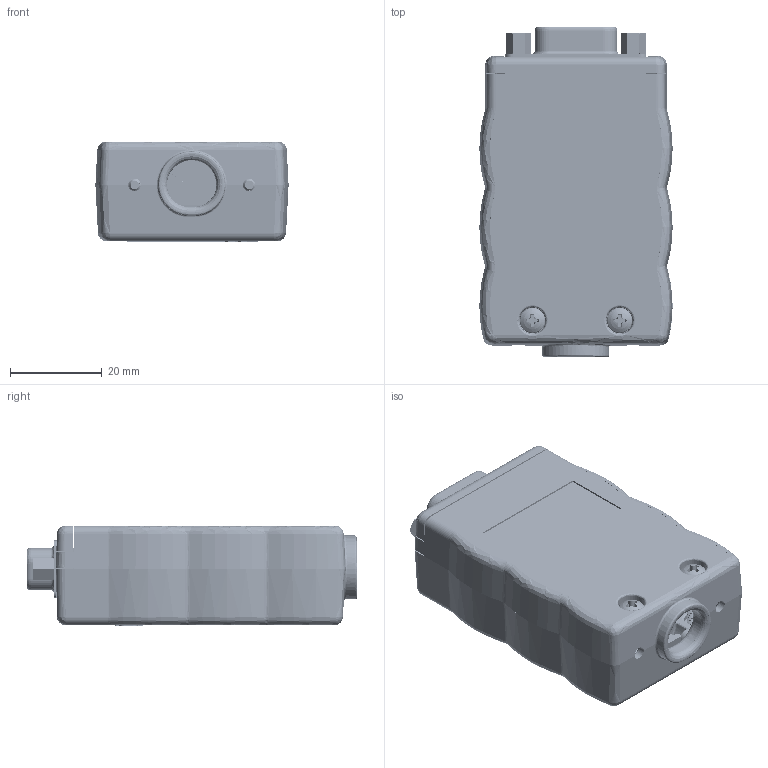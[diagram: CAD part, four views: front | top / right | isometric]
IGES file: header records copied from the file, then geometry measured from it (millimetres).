
Start section: SolidWorks IGES file using analytic representation for surfaces
Global section: file name: W:\end-user\products\brk\brke\brkead15hd\brkead15hdm\3dmodel\2024-01-24_rev_a\render\brkead15hdm-r_rev_a.igs; native system: SolidWorks 2018; preprocessor: SolidWorks 2018; author: leviroy; date: 240130.105318; units: inch
Bounding box: 42.23 x 72.16 x 22 mm (x, y, z)
Surface area: 32892.7 mm2 (no closed solid volume)
Topology: 0 solids, 0 shells, 7860 faces, 63443 edges, 63383 vertices
Faces by surface type: bspline 6073, revolution 1787
